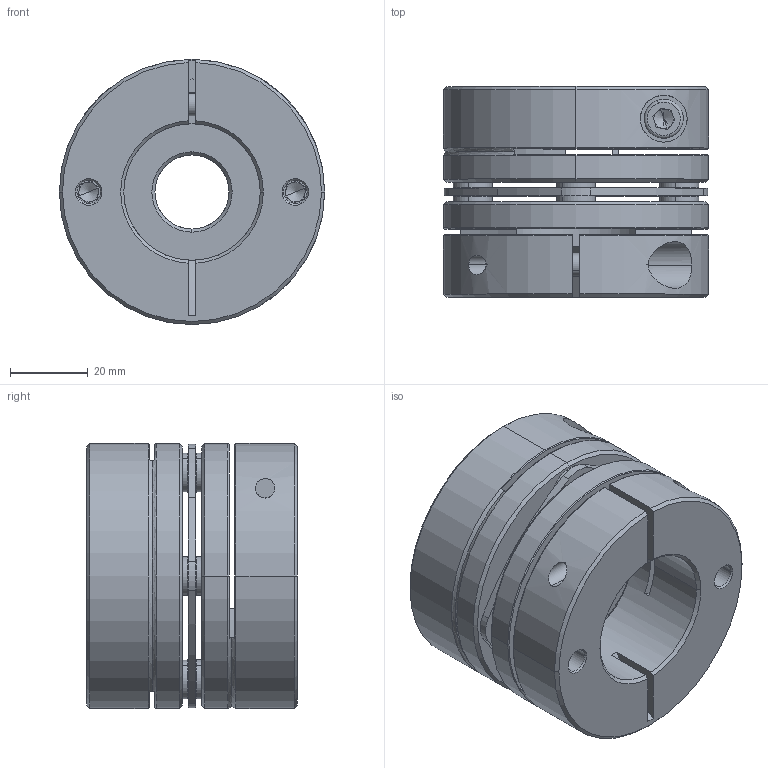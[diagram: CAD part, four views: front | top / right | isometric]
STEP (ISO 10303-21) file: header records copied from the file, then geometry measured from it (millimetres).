
FILE_DESCRIPTION (( 'STEP AP203' ), '1' );
FILE_NAME ('LD1-D68-19-35.STEP', '2021-10-26T07:56:29', ( '' ), ( '' ), 'SwSTEP 2.0', 'SolidWorks 2018', '' );
FILE_SCHEMA (( 'CONFIG_CONTROL_DESIGN' ));
Length unit declared in the file: millimetre
Products named in the file (2): LD1-D68-19-35; 錨璃101^LD1-D68
Assembly tree (1 placements, depth 2):
  LD1-D68-19-35
    錨璃101^LD1-D68
Bounding box: 68 x 54 x 68 mm (x, y, z)
Volume: 136883.8 mm3; surface area: 45414.1 mm2
Topology: 1 solids, 15 shells, 445 faces, 1059 edges, 650 vertices
Faces by surface type: cylinder 163, plane 138, cone 122, torus 22
Entity records: 13459 total; most frequent: CARTESIAN_POINT 2611, DIRECTION 2433, ORIENTED_EDGE 2086, EDGE_CURVE 1043, AXIS2_PLACEMENT_3D 988, VERTEX_POINT 650, CIRCLE 539, EDGE_LOOP 525
